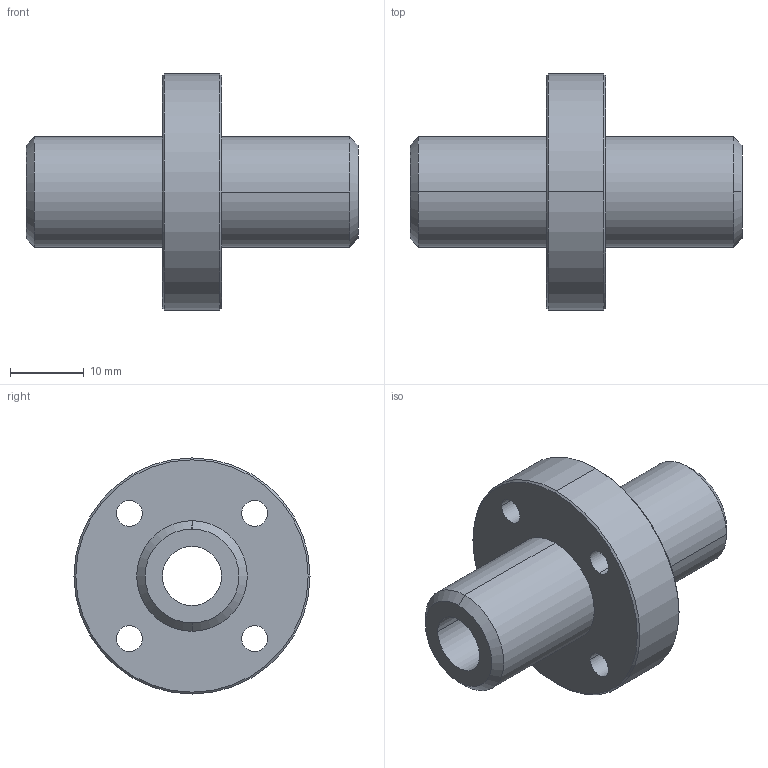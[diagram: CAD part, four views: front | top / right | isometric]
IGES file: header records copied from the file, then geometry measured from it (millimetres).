
Start section: 3D InterOp IGES (Version 21 0 1), Spatial Corp. Copyright (c) 1999-2007.
Global section: file name: CFPJR08.igs; native system: Spatial Corp.; preprocessor: 3D InterOp GENERIC/IGES 3.0; author: Noname; organization: Noname; date: 20220324.131952; units: millimetre
Bounding box: 45 x 32 x 32 mm (x, y, z)
Surface area: 5462 mm2 (no closed solid volume)
Topology: 0 solids, 0 shells, 40 faces, 180 edges, 180 vertices
Faces by surface type: revolution 32, extrusion 8
